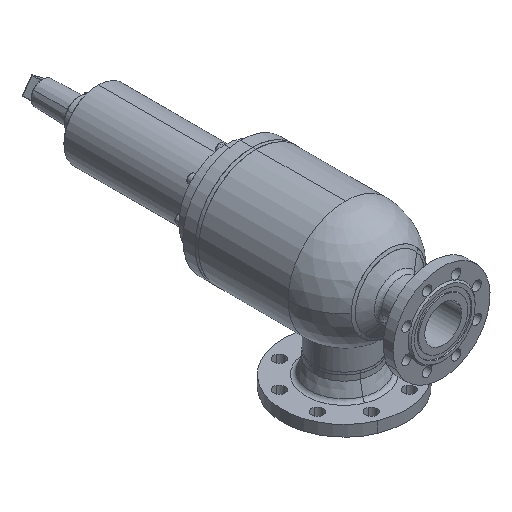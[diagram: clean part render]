
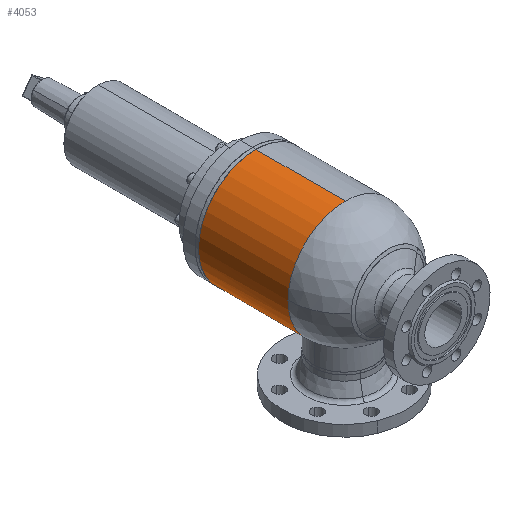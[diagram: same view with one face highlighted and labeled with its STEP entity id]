
A CAD part, isometric view. The second image highlights one B-rep face of the part: STEP entity #4053.
In plain terms, the highlighted cylindrical face has radius 109.55 mm (diameter 219.1 mm), a partial arc.
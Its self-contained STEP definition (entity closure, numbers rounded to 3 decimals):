
#49 = CIRCLE ( 'NONE', #50, 109.55 ) ;
#50 = AXIS2_PLACEMENT_3D ( 'NONE', #51, #52, #53 ) ;
#51 = CARTESIAN_POINT ( 'NONE',  ( 0., -201., 0. ) ) ;
#52 = DIRECTION ( 'NONE',  ( 0., 1., 0. ) ) ;
#53 = DIRECTION ( 'NONE',  ( 0., 0., 1. ) ) ;
#16826 = CARTESIAN_POINT ( 'NONE',  ( 0., -145., -109.55 ) ) ;
#488 = FACE_OUTER_BOUND ( 'NONE', #3781, .T. ) ;
#489 = CYLINDRICAL_SURFACE ( 'NONE', #490, 109.55 ) ;
#490 = AXIS2_PLACEMENT_3D ( 'NONE', #491, #492, #493 ) ;
#491 = CARTESIAN_POINT ( 'NONE',  ( 0., 0., 0. ) ) ;
#492 = DIRECTION ( 'NONE',  ( 0., 1., 0. ) ) ;
#493 = DIRECTION ( 'NONE',  ( 0., 0., 1. ) ) ;
#904 = CIRCLE ( 'NONE', #905, 109.55 ) ;
#905 = AXIS2_PLACEMENT_3D ( 'NONE', #906, #907, #908 ) ;
#906 = CARTESIAN_POINT ( 'NONE',  ( 0., -30.125, 0. ) ) ;
#907 = DIRECTION ( 'NONE',  ( 0., 1., 0. ) ) ;
#908 = DIRECTION ( 'NONE',  ( 0., 0., 1. ) ) ;
#966 = CARTESIAN_POINT ( 'NONE',  ( 0., -30.125, -109.55 ) ) ;
#1335 = LINE ( 'NONE', #1336, #1337 ) ;
#1336 = CARTESIAN_POINT ( 'NONE',  ( 0., 0., -109.55 ) ) ;
#1337 = VECTOR ( 'NONE', #1338, 1000. ) ;
#1338 = DIRECTION ( 'NONE',  ( 0., 1., 0. ) ) ;
#1771 = EDGE_CURVE ( 'NONE', #21559, #22901, #19048, .T. ) ;
#2247 = EDGE_CURVE ( 'NONE', #15894, #21932, #21018, .T. ) ;
#2248 = ORIENTED_EDGE ( 'NONE', *, *, #4486, .F. ) ;
#2652 = ORIENTED_EDGE ( 'NONE', *, *, #2247, .T. ) ;
#19048 = CIRCLE ( 'NONE', #19049, 109.55 ) ;
#19049 = AXIS2_PLACEMENT_3D ( 'NONE', #19050, #19051, #19052 ) ;
#19050 = CARTESIAN_POINT ( 'NONE',  ( 0., -201., 0. ) ) ;
#19051 = DIRECTION ( 'NONE',  ( 0., 1., 0. ) ) ;
#19052 = DIRECTION ( 'NONE',  ( 0., 0., 1. ) ) ;
#2995 = ORIENTED_EDGE ( 'NONE', *, *, #10825, .T. ) ;
#3222 = ORIENTED_EDGE ( 'NONE', *, *, #4861, .F. ) ;
#3568 = EDGE_CURVE ( 'NONE', #22901, #10592, #49, .T. ) ;
#3781 = EDGE_LOOP ( 'NONE', ( #3222, #2652, #5114, #4548, #3977, #2995, #2248 ) ) ;
#3977 = ORIENTED_EDGE ( 'NONE', *, *, #3568, .T. ) ;
#4053 = ADVANCED_FACE ( 'NONE', ( #488 ), #489, .T. ) ;
#4486 = EDGE_CURVE ( 'NONE', #4623, #11809, #904, .T. ) ;
#4548 = ORIENTED_EDGE ( 'NONE', *, *, #1771, .T. ) ;
#4623 = VERTEX_POINT ( 'NONE', #966 ) ;
#21018 = B_SPLINE_CURVE_WITH_KNOTS ( 'NONE', 3,
 ( #21019, #21020, #21021, #21022, #21023, #21024, #21025, #21026, #21049, #21050, #21051, #21052, #21053, #21054, #21055, #21056, #21057, #21058, #21059, #21060, #21061, #21062, #21063, #21064, #21086, #21087, #21088, #21089, #21090, #21091, #21092, #21093, #21094, #21095 ),
 .UNSPECIFIED., .F., .F.,
 ( 4, 2, 2, 2, 2, 2, 2, 2, 2, 2, 2, 2, 2, 2, 2, 2, 4 ),
 ( 0., 0.011, 0.016, 0.019, 0.021, 0.032, 0.035, 0.038, 0.043, 0.048, 0.051, 0.054, 0.064, 0.07, 0.072, 0.075, 0.086 ),
 .UNSPECIFIED. ) ;
#21019 = CARTESIAN_POINT ( 'NONE',  ( 0., -145., -109.55 ) ) ;
#21020 = CARTESIAN_POINT ( 'NONE',  ( -3.634, -145., -109.55 ) ) ;
#21021 = CARTESIAN_POINT ( 'NONE',  ( -7.197, -145.363, -109.37 ) ) ;
#21022 = CARTESIAN_POINT ( 'NONE',  ( -12.44, -146.422, -108.856 ) ) ;
#21023 = CARTESIAN_POINT ( 'NONE',  ( -14.171, -146.862, -108.643 ) ) ;
#21024 = CARTESIAN_POINT ( 'NONE',  ( -16.742, -147.653, -108.267 ) ) ;
#21025 = CARTESIAN_POINT ( 'NONE',  ( -17.594, -147.939, -108.131 ) ) ;
#21026 = CARTESIAN_POINT ( 'NONE',  ( -19.271, -148.548, -107.845 ) ) ;
#21049 = CARTESIAN_POINT ( 'NONE',  ( -20.098, -148.872, -107.694 ) ) ;
#21050 = CARTESIAN_POINT ( 'NONE',  ( -24.176, -150.585, -106.901 ) ) ;
#21051 = CARTESIAN_POINT ( 'NONE',  ( -27.26, -152.253, -106.148 ) ) ;
#21052 = CARTESIAN_POINT ( 'NONE',  ( -30.904, -154.709, -105.103 ) ) ;
#21053 = CARTESIAN_POINT ( 'NONE',  ( -31.624, -155.22, -104.889 ) ) ;
#21054 = CARTESIAN_POINT ( 'NONE',  ( -33.031, -156.272, -104.454 ) ) ;
#21055 = CARTESIAN_POINT ( 'NONE',  ( -33.719, -156.812, -104.234 ) ) ;
#21056 = CARTESIAN_POINT ( 'NONE',  ( -35.736, -158.478, -103.567 ) ) ;
#21057 = CARTESIAN_POINT ( 'NONE',  ( -37.019, -159.648, -103.114 ) ) ;
#21058 = CARTESIAN_POINT ( 'NONE',  ( -39.466, -162.102, -102.202 ) ) ;
#21059 = CARTESIAN_POINT ( 'NONE',  ( -40.63, -163.388, -101.744 ) ) ;
#21060 = CARTESIAN_POINT ( 'NONE',  ( -42.288, -165.407, -101.061 ) ) ;
#21061 = CARTESIAN_POINT ( 'NONE',  ( -42.825, -166.095, -100.834 ) ) ;
#21062 = CARTESIAN_POINT ( 'NONE',  ( -43.871, -167.502, -100.384 ) ) ;
#21063 = CARTESIAN_POINT ( 'NONE',  ( -44.378, -168.221, -100.16 ) ) ;
#21064 = CARTESIAN_POINT ( 'NONE',  ( -46.815, -171.859, -99.066 ) ) ;
#21086 = CARTESIAN_POINT ( 'NONE',  ( -48.465, -174.928, -98.258 ) ) ;
#21087 = CARTESIAN_POINT ( 'NONE',  ( -50.496, -179.785, -97.221 ) ) ;
#21088 = CARTESIAN_POINT ( 'NONE',  ( -51.098, -181.446, -96.905 ) ) ;
#21089 = CARTESIAN_POINT ( 'NONE',  ( -51.885, -184.007, -96.485 ) ) ;
#21090 = CARTESIAN_POINT ( 'NONE',  ( -52.128, -184.875, -96.353 ) ) ;
#21091 = CARTESIAN_POINT ( 'NONE',  ( -52.568, -186.613, -96.114 ) ) ;
#21092 = CARTESIAN_POINT ( 'NONE',  ( -52.766, -187.485, -96.005 ) ) ;
#21093 = CARTESIAN_POINT ( 'NONE',  ( -53.645, -191.86, -95.52 ) ) ;
#21094 = CARTESIAN_POINT ( 'NONE',  ( -54., -195.406, -95.316 ) ) ;
#21095 = CARTESIAN_POINT ( 'NONE',  ( -54., -199., -95.316 ) ) ;
#4861 = EDGE_CURVE ( 'NONE', #15894, #4623, #1335, .T. ) ;
#5114 = ORIENTED_EDGE ( 'NONE', *, *, #22131, .T. ) ;
#21559 = VERTEX_POINT ( 'NONE', #5817 ) ;
#21932 = VERTEX_POINT ( 'NONE', #6114 ) ;
#22131 = EDGE_CURVE ( 'NONE', #21932, #21559, #7148, .T. ) ;
#5817 = CARTESIAN_POINT ( 'NONE',  ( -53.963, -201., -95.337 ) ) ;
#6114 = CARTESIAN_POINT ( 'NONE',  ( -54., -199., -95.316 ) ) ;
#22901 = VERTEX_POINT ( 'NONE', #9334 ) ;
#7148 = B_SPLINE_CURVE_WITH_KNOTS ( 'NONE', 3,
 ( #7149, #7150, #7152, #7153, #7154 ),
 .UNSPECIFIED., .F., .F.,
 ( 4, 1, 4 ),
 ( 0.086, 0.087, 0.088 ),
 .UNSPECIFIED. ) ;
#7149 = CARTESIAN_POINT ( 'NONE',  ( -54., -199., -95.316 ) ) ;
#7150 = CARTESIAN_POINT ( 'NONE',  ( -54., -199.332, -95.316 ) ) ;
#7152 = CARTESIAN_POINT ( 'NONE',  ( -53.994, -199.998, -95.32 ) ) ;
#7153 = CARTESIAN_POINT ( 'NONE',  ( -53.975, -200.666, -95.33 ) ) ;
#7154 = CARTESIAN_POINT ( 'NONE',  ( -53.963, -201., -95.337 ) ) ;
#9334 = CARTESIAN_POINT ( 'NONE',  ( -109.55, -201., 0. ) ) ;
#10444 = CARTESIAN_POINT ( 'NONE',  ( 0., -201., 109.55 ) ) ;
#10592 = VERTEX_POINT ( 'NONE', #10444 ) ;
#10632 = LINE ( 'NONE', #10633, #10634 ) ;
#10633 = CARTESIAN_POINT ( 'NONE',  ( 0., 0., 109.55 ) ) ;
#10634 = VECTOR ( 'NONE', #10635, 1000. ) ;
#10635 = DIRECTION ( 'NONE',  ( 0., 1., 0. ) ) ;
#10825 = EDGE_CURVE ( 'NONE', #10592, #11809, #10632, .T. ) ;
#11353 = CARTESIAN_POINT ( 'NONE',  ( 0., -30.125, 109.55 ) ) ;
#11809 = VERTEX_POINT ( 'NONE', #11353 ) ;
#15894 = VERTEX_POINT ( 'NONE', #16826 ) ;
